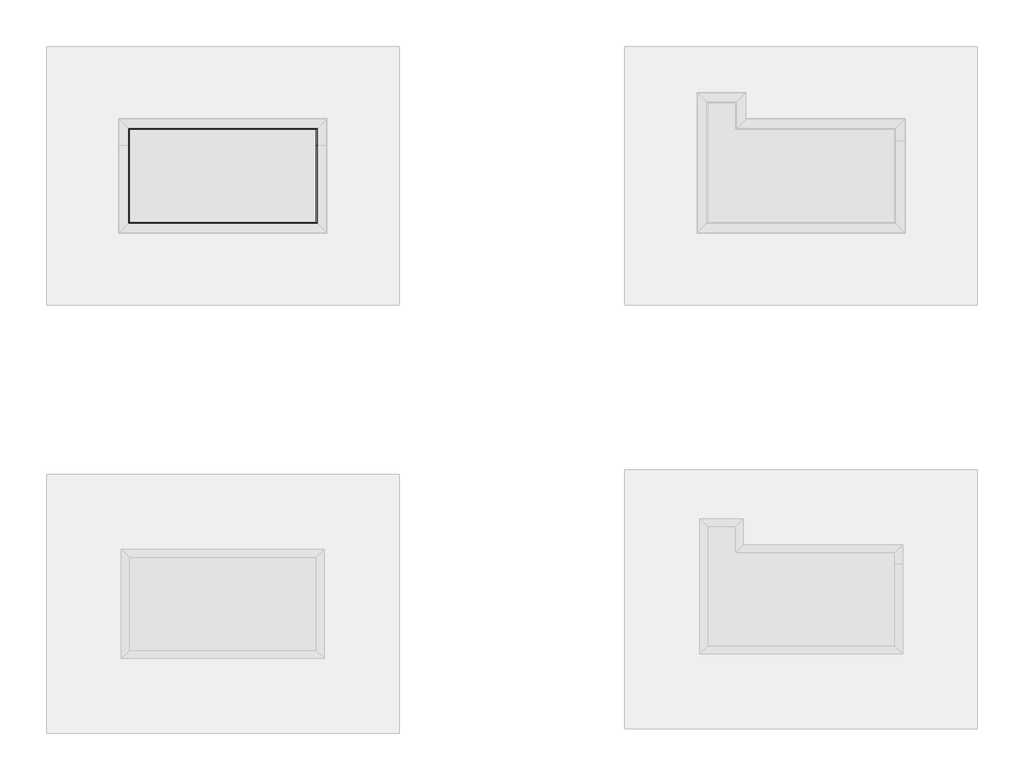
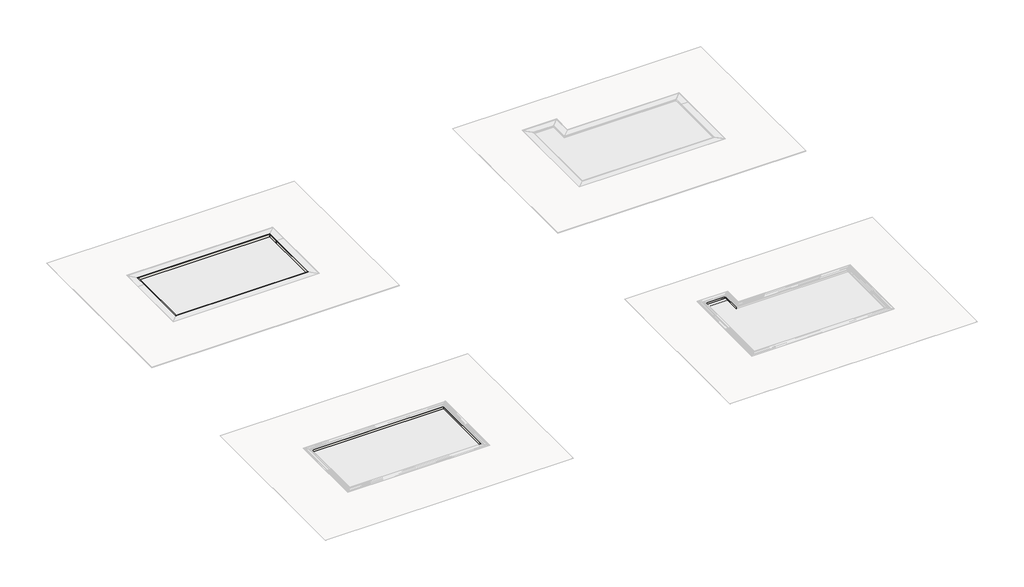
# One storey, part 1 of 8: 18 walls.
"""IFC4 building model written with IfcOpenShell, lengths in millimetres."""

import ifcopenshell
import ifcopenshell.guid

model = None  # the IFC model being written
_history = None  # IfcOwnerHistory: only IFC2X3 demands one
_inside = {}  # id of a spatial element -> (the spatial element, [elements in it])
_under = {}  # id of a project, library or spatial element -> (it, [spatial elements below it])
_declared = {}  # id of a project -> (the project, [libraries it declares])
_typed = {}  # id of a type object -> (the type object, [elements of that type])
_made_of = {}  # id of a material, layer set ... -> (it, [elements and type objects made of it])


def new_model(schema):
    """Start an empty IFC model of exactly this schema.

    Asked for "IFC4X3", IfcOpenShell would pick the latest addendum, in which some entities
    have other attributes; the version numbers below select the first issue.
    IFC2X3 requires an IfcOwnerHistory on every rooted entity: one is made here for all.
    """
    global model, _history
    if schema == "IFC4X3":
        model = ifcopenshell.file(schema_version=(4, 3, 0, 0))
    else:
        model = ifcopenshell.file(schema=schema)
    _inside.clear()
    _under.clear()
    _declared.clear()
    _typed.clear()
    _made_of.clear()
    _history = None
    if model.schema == "IFC2X3":
        org = make("IfcOrganization", Name="unknown")
        user = make(
            "IfcPersonAndOrganization",
            ThePerson=make("IfcPerson", FamilyName="unknown"),
            TheOrganization=org,
        )
        app = make(
            "IfcApplication",
            ApplicationDeveloper=org,
            Version="unknown",
            ApplicationFullName="unknown",
            ApplicationIdentifier="unknown",
        )
        _history = make(
            "IfcOwnerHistory",
            OwningUser=user,
            OwningApplication=app,
            ChangeAction="ADDED",
            CreationDate=0,
        )
    return model


def make(cls, **values):
    """One entity of the class cls with the attributes given. An attribute that is None is left unset."""
    return model.create_entity(
        cls, **{name: value for name, value in values.items() if value is not None}
    )


def rooted(cls, **values):
    """An entity with a GlobalId (a new one), such as an element, a storey or a relation."""
    return make(cls, GlobalId=ifcopenshell.guid.new(), OwnerHistory=_history, **values)


def si_unit(unit_type, name, prefix=None):
    """IfcSIUnit, for example si_unit("LENGTHUNIT", "METRE", prefix="MILLI")."""
    return make("IfcSIUnit", UnitType=unit_type, Prefix=prefix, Name=name)


def assignment(units):
    """IfcUnitAssignment: the units of a project."""
    return None if units is None else make("IfcUnitAssignment", Units=units)


def point(xyz):
    """IfcCartesianPoint."""
    return None if xyz is None else make("IfcCartesianPoint", Coordinates=xyz)


def direction(xyz):
    """IfcDirection."""
    return None if xyz is None else make("IfcDirection", DirectionRatios=xyz)


def frame(location, z_axis=None, x_axis=None):
    """IfcAxis2Placement3D, a coordinate frame: its origin and axes. An axis left out is left unset."""
    return make(
        "IfcAxis2Placement3D",
        Location=point(location),
        Axis=direction(z_axis),
        RefDirection=direction(x_axis),
    )


def origin():
    """The frame at (0, 0, 0) with its axes left unset."""
    return frame((0.0, 0.0, 0.0))


def place(relative_to, where):
    """IfcLocalPlacement: puts the frame where relative to a parent placement (None: the world)."""
    return make(
        "IfcLocalPlacement", PlacementRelTo=relative_to, RelativePlacement=where
    )


def context(
    kind, dimensions, precision=None, world=None, true_north=None, identifier=None
):
    """IfcGeometricRepresentationContext, for example the 3D "Model" context."""
    return make(
        "IfcGeometricRepresentationContext",
        ContextIdentifier=identifier,
        ContextType=kind,
        CoordinateSpaceDimension=dimensions,
        Precision=precision,
        WorldCoordinateSystem=world,
        TrueNorth=true_north,
    )


def project(units=None, contexts=None):
    """IfcProject with its units and contexts."""
    return rooted(
        "IfcProject",
        Name="project",
        RepresentationContexts=contexts,
        UnitsInContext=assignment(units),
    )


def spatial(cls, under=None, at=None, **own):
    """A site, building, storey or space (cls), placed at a placement, below another one or the project."""
    s = rooted(cls, ObjectPlacement=at, **own)
    if under is not None:
        _under.setdefault(under.id(), (under, []))[1].append(s)
    return s


def polyline(points):
    """IfcPolyline through the points."""
    return make("IfcPolyline", Points=[point(p) for p in points])


def circle_curve(where, radius):
    """IfcCircle in the frame where."""
    return make("IfcCircle", Position=where, Radius=radius)


def faces_of(points, faces, orient=None, outer=None):
    """IfcFace entities. A face is a list of loops; a loop is a list of indices into points, from 0.

    orient and outer hold one flag for each loop. By default every Orientation is true, the
    first loop of a face is its IfcFaceOuterBound and the others are IfcFaceBound.
    """
    made = []
    for i, loops in enumerate(faces):
        bounds = []
        for j, loop in enumerate(loops):
            is_outer = j == 0 if outer is None else outer[i][j]
            bounds.append(
                make(
                    "IfcFaceOuterBound" if is_outer else "IfcFaceBound",
                    Bound=make("IfcPolyLoop", Polygon=[points[k] for k in loop]),
                    Orientation=True if orient is None else orient[i][j],
                )
            )
        made.append(make("IfcFace", Bounds=bounds))
    return made


def faceted_brep(points, faces, orient=None, outer=None, voids=None):
    """IfcFacetedBrep: a solid bounded by flat faces; with voids (closed shells), ...WithVoids."""
    shared = [point(p) for p in points]
    hull = make("IfcClosedShell", CfsFaces=faces_of(shared, faces, orient, outer))
    if voids is None:
        return make("IfcFacetedBrep", Outer=hull)
    return make(
        "IfcFacetedBrepWithVoids",
        Outer=hull,
        Voids=[
            make(cls, CfsFaces=faces_of(shared, fs, o, b)) for cls, fs, o, b in voids
        ],
    )


def shape(context_of_items, identifier, shape_type, items):
    """IfcShapeRepresentation: the items that make up one representation, for example the "Body"."""
    return make(
        "IfcShapeRepresentation",
        ContextOfItems=context_of_items,
        RepresentationIdentifier=identifier,
        RepresentationType=shape_type,
        Items=items,
    )


def made_of(thing, what):
    """Note that an element or type object is made of a material, layer set ...; save() writes the relation."""
    if what is not None:
        _made_of.setdefault(what.id(), (what, []))[1].append(thing)
    return thing


def element(
    cls,
    number,
    at=None,
    inside=None,
    cuts=None,
    type_object=None,
    material=None,
    context=None,
    identifier="Body",
    shape_type=None,
    held_by="IfcProductDefinitionShape",
    body=None,
    shapes=None,
    **own,
):
    """One element of the class cls, such as IfcWall. Its Tag is "e" and its number.

    at: its placement. inside: the storey or other place that contains it. cuts: it is an
    opening in that element (IfcRelVoidsElement). A single representation is given by context,
    identifier, shape_type and body (its items); several are given by shapes. held_by: the class
    of the entity that holds the representations. save() writes the other relations.
    """
    e = rooted(cls, Tag="e%d" % number, ObjectPlacement=at, **own)
    if body is not None:
        shapes = [shape(context, identifier, shape_type, body)]
    if shapes is not None:
        e.Representation = make(held_by, Representations=shapes)
    if inside is not None:
        _inside.setdefault(inside.id(), (inside, []))[1].append(e)
    if cuts is not None:
        rooted(
            "IfcRelVoidsElement", RelatingBuildingElement=cuts, RelatedOpeningElement=e
        )
    if type_object is not None:
        _typed.setdefault(type_object.id(), (type_object, []))[1].append(e)
    return made_of(e, material)


def aggregate(whole, parts):
    """IfcRelAggregates: a whole, such as a stair, and the parts it consists of."""
    return rooted("IfcRelAggregates", RelatingObject=whole, RelatedObjects=parts)


def save(model, path):
    """Write the relations noted so far, then the file.

    IfcRelAggregates (storeys below a building ...), IfcRelContainedInSpatialStructure (elements
    in a storey), IfcRelDefinesByType, IfcRelAssociatesMaterial and IfcRelDeclares: one each for
    every whole, place, type object, material and project.
    """
    for whole, parts in _under.values():
        aggregate(whole, parts)
    for where, things in _inside.values():
        rooted(
            "IfcRelContainedInSpatialStructure",
            RelatedElements=things,
            RelatingStructure=where,
        )
    for kind, things in _typed.values():
        rooted("IfcRelDefinesByType", RelatedObjects=things, RelatingType=kind)
    for what, things in _made_of.values():
        rooted("IfcRelAssociatesMaterial", RelatedObjects=things, RelatingMaterial=what)
    for by, libraries in _declared.values():
        rooted("IfcRelDeclares", RelatingContext=by, RelatedDefinitions=libraries)
    model.write(path)


def plane_surface(at):
    """IfcPlane: the flat surface through the origin of the frame at, square to its z axis."""
    return make("IfcPlane", Position=at)


def cylinder_surface(at, radius):
    """IfcCylindricalSurface: all points at the distance radius from the z axis of the frame at."""
    return make("IfcCylindricalSurface", Position=at, Radius=radius)


def revolved_surface(curve, axis_point, axis_direction):
    """IfcSurfaceOfRevolution: the curve turned about the line through axis_point along axis_direction."""
    return make(
        "IfcSurfaceOfRevolution",
        SweptCurve=make("IfcArbitraryOpenProfileDef", ProfileType="CURVE", Curve=curve),
        AxisPosition=make("IfcAxis1Placement", Location=point(axis_point), Axis=direction(axis_direction)),
    )


def advanced_brep(points, edges, surfaces, faces):
    """IfcAdvancedBrep: a solid bounded by faces that lie on surfaces and meet in shared edges.

    An edge is (start, end): straight between two places in points (the first is 0);
    or (start, end, curve); or (start, end, curve, False) where it runs against its curve.
    A face is (place in surfaces, loops), or (place, loops, False) where it looks against
    its surface's normal. A loop lists edges by number (the first is 1), with a minus sign
    where the edge is run from its end to its start. The first loop is the outer one.
    """
    corners = [point(p) for p in points]
    vertices = [make("IfcVertexPoint", VertexGeometry=c) for c in corners]
    made = []
    for start, end, *more in edges:
        made.append(
            make(
                "IfcEdgeCurve",
                EdgeStart=vertices[start],
                EdgeEnd=vertices[end],
                EdgeGeometry=more[0] if more else make("IfcPolyline", Points=[corners[start], corners[end]]),
                SameSense=more[1] if len(more) > 1 else True,
            )
        )
    hull = []
    for where, loops, *sense in faces:
        bounds = []
        for j, loop in enumerate(loops):
            ring = [make("IfcOrientedEdge", EdgeElement=made[abs(k) - 1], Orientation=k > 0) for k in loop]
            bounds.append(
                make(
                    "IfcFaceOuterBound" if j == 0 else "IfcFaceBound",
                    Bound=make("IfcEdgeLoop", EdgeList=ring),
                    Orientation=True,
                )
            )
        hull.append(make("IfcAdvancedFace", Bounds=bounds, FaceSurface=surfaces[where], SameSense=sense[0] if sense else True))
    return make("IfcAdvancedBrep", Outer=make("IfcClosedShell", CfsFaces=hull))


model = new_model("IFC4")

# Units and contexts
model_context = context("Model", 3, world=origin())
ifc_project = project(units=[si_unit("LENGTHUNIT", "METRE", prefix="MILLI")], contexts=[model_context])

# Site, building, storey
site = spatial("IfcSite", under=ifc_project)
building = spatial("IfcBuilding", under=site)
storey = spatial("IfcBuildingStorey", under=building, Name="EXAGRES_Serie YOHO_Piscinas_ejemplo", Elevation=0.0)

# Walls
placement = place(None, origin())
element("IfcWall", 1, ObjectType="Exagres_Piscina Skimmer - Borde 45x75 - Yoho Oak -", at=placement, inside=storey, context=model_context, shape_type="Brep", body=[
    faceted_brep([(-6819.8495187, -4306.1586753, -1510.0), (-4819.8495187, -4306.1586753, -1510.0), (-4819.8495187, -4306.1586753, -1509.0), (-6819.8495187, -4306.1586753, -1509.0), (-10819.8495187, -4306.1586753, -509.0), (-12819.8495187, -4306.1586753, -509.0), (-12819.8495187, -4306.1586753, -510.0), (-10819.8495187, -4306.1586753, -510.0), (-4594.8495187, -4081.1586753, -1510.0), (-6819.8495187, -4081.1586753, -1510.0), (-10819.8495187, -4081.1586753, -510.0), (-13044.8495187, -4081.1586753, -510.0), (-13044.8495187, -4081.1586753, -509.0), (-10819.8495187, -4081.1586753, -509.0), (-6819.8495187, -4081.1586753, -1509.0), (-4594.8495187, -4081.1586753, -1509.0)], [[[0, 1, 2, 3, 4, 5, 6, 7]], [[8, 9, 10, 11, 12, 13, 14, 15]], [[1, 0, 9, 8]], [[7, 6, 11, 10]], [[0, 7, 10, 9]], [[4, 13, 12, 5]], [[13, 4, 3, 14]], [[11, 6, 5, 12]], [[1, 8, 15, 2]], [[14, 3, 2, 15]]]),
    faceted_brep([(-4819.8495187, -4306.1586753, 0.0), (-12819.8495187, -4306.1586753, 0.0), (-12819.8495187, -4306.1586753, -500.0), (-10819.8495187, -4306.1586753, -500.0), (-6819.8495187, -4306.1586753, -1500.0), (-4819.8495187, -4306.1586753, -1500.0), (-13044.8495187, -4081.1586753, -200.0), (-4594.8495187, -4081.1586753, -200.0), (-4594.8495187, -4081.1586753, -1500.0), (-6819.8495187, -4081.1586753, -1500.0), (-10819.8495187, -4081.1586753, -500.0), (-13044.8495187, -4081.1586753, -500.0), (-4794.8495187, -4281.1586753, -200.0), (-12844.8495187, -4281.1586753, -200.0), (-12844.8495187, -4281.1586753, 0.0), (-4794.8495187, -4281.1586753, 0.0), (-4807.6328552, -4293.9420118, 0.0), (-4802.4464243, -4288.7555809, 0.0), (-12837.2526131, -4288.7555809, 0.0), (-12832.0661823, -4293.9420118, 0.0)], [[[0, 1, 2, 3, 4, 5]], [[6, 7, 8, 9, 10, 11]], [[12, 13, 14, 15]], [[13, 12, 7, 6]], [[1, 0, 16, 17, 15, 14, 18, 19]], [[10, 3, 2, 11]], [[4, 9, 8, 5]], [[3, 10, 9, 4]], [[13, 6, 11, 2, 1, 19, 18, 14]], [[7, 12, 15, 17, 16, 0, 5, 8]]]),
])
element("IfcWall", 2, ObjectType="Exagres_Piscina Skimmer - Borde 45x75 - Yoho Oak -", at=placement, inside=storey, context=model_context, shape_type="Brep", body=[
    faceted_brep([(-4819.8495187, -4306.1586753, -1510.0), (-4819.8495187, -5006.1586753, -1510.0), (-4819.8495187, -5006.1586753, 0.0), (-4819.8495187, -4306.1586753, 0.0), (-4594.8495187, -5006.1586753, -1510.0), (-4594.8495187, -4081.1586753, -1510.0), (-4594.8495187, -4081.1586753, -200.0), (-4594.8495187, -5006.1586753, -200.0), (-4794.8495187, -5006.1586753, -200.0), (-4794.8495187, -5006.1586753, 0.0), (-4802.4464243, -5006.1586753, 0.0), (-4807.6328552, -5006.1586753, 0.0), (-4794.8495187, -4281.1586753, 0.0), (-4802.4464243, -4288.7555809, 0.0), (-4807.6328552, -4293.9420118, 0.0), (-4794.8495187, -4281.1586753, -200.0)], [[[0, 1, 2, 3]], [[4, 5, 6, 7]], [[1, 0, 5, 4]], [[2, 1, 4, 7, 8, 9, 10, 11]], [[3, 2, 11, 10, 9, 12, 13, 14]], [[8, 15, 12, 9]], [[15, 8, 7, 6]], [[0, 3, 14, 13, 12, 15, 6, 5]]]),
])
element("IfcWall", 3, ObjectType="Exagres_Piscina Skimmer - Borde 45x75 - Yoho Oak -", at=placement, inside=storey, context=model_context, shape_type="Brep", body=[
    faceted_brep([(-12819.8495187, -8306.1586753, 0.0), (-4819.8495187, -8306.1586753, 0.0), (-4819.8495187, -8306.1586753, -1510.0), (-6681.3506315, -8306.1586753, -1510.0), (-10958.348406, -8306.1586753, -510.0), (-12819.8495187, -8306.1586753, -510.0), (-6681.3506315, -8531.1586753, -1510.0), (-4594.8495187, -8531.1586753, -1510.0), (-4594.8495187, -8531.1586753, -200.0), (-13044.8495187, -8531.1586753, -200.0), (-13044.8495187, -8531.1586753, -510.0), (-10958.348406, -8531.1586753, -510.0), (-12844.8495187, -8331.1586753, -200.0), (-4794.8495187, -8331.1586753, -200.0), (-4794.8495187, -8331.1586753, 0.0), (-12844.8495187, -8331.1586753, 0.0), (-12832.0661823, -8318.3753388, 0.0), (-12837.2526131, -8323.5617697, 0.0), (-4802.4464243, -8323.5617697, 0.0), (-4807.6328552, -8318.3753388, 0.0)], [[[0, 1, 2, 3, 4, 5]], [[6, 7, 8, 9, 10, 11]], [[12, 13, 14, 15]], [[13, 12, 9, 8]], [[1, 0, 16, 17, 15, 14, 18, 19]], [[3, 2, 7, 6]], [[4, 3, 6, 11]], [[5, 4, 11, 10]], [[2, 1, 19, 18, 14, 13, 8, 7]], [[0, 5, 10, 9, 12, 15, 17, 16]]]),
])
element("IfcWall", 4, ObjectType="Exagres_Piscina Skimmer - Borde 45x75 - Yoho Oak -", at=placement, inside=storey, context=model_context, shape_type="Brep", body=[
    faceted_brep([(-12819.8495187, -8306.1586753, -500.0), (-12819.8495187, -5006.1586753, -500.0), (-12819.8495187, -5006.1586753, 0.0), (-12819.8495187, -8306.1586753, 0.0), (-13044.8495187, -5006.1586753, -500.0), (-13044.8495187, -8531.1586753, -500.0), (-13044.8495187, -8531.1586753, -200.0), (-13044.8495187, -5006.1586753, -200.0), (-12844.8495187, -5006.1586753, -200.0), (-12844.8495187, -5006.1586753, 0.0), (-12837.2526131, -5006.1586753, 0.0), (-12832.0661823, -5006.1586753, 0.0), (-12844.8495187, -8331.1586753, 0.0), (-12837.2526131, -8323.5617697, 0.0), (-12832.0661823, -8318.3753388, 0.0), (-12844.8495187, -8331.1586753, -200.0)], [[[0, 1, 2, 3]], [[4, 5, 6, 7]], [[1, 0, 5, 4]], [[2, 1, 4, 7, 8, 9, 10, 11]], [[3, 2, 11, 10, 9, 12, 13, 14]], [[8, 15, 12, 9]], [[15, 8, 7, 6]], [[0, 3, 14, 13, 12, 15, 6, 5]]]),
])
element("IfcWall", 5, ObjectType="Exagres_Piscina Skimmer - Borde 45x75 - Yoho Oak -", at=placement, inside=storey, context=model_context, shape_type="Brep", body=[
    faceted_brep([(-12819.8495187, -5006.1586753, -500.0), (-12819.8495187, -4306.1586753, -500.0), (-12819.8495187, -4306.1586753, 0.0), (-12819.8495187, -5006.1586753, 0.0), (-13044.8495187, -4081.1586753, -500.0), (-13044.8495187, -5006.1586753, -500.0), (-13044.8495187, -5006.1586753, -200.0), (-13044.8495187, -4081.1586753, -200.0), (-12832.0661823, -4293.9420118, 0.0), (-12837.2526131, -4288.7555809, 0.0), (-12844.8495187, -4281.1586753, 0.0), (-12844.8495187, -5006.1586753, 0.0), (-12837.2526131, -5006.1586753, 0.0), (-12832.0661823, -5006.1586753, 0.0), (-12844.8495187, -5006.1586753, -200.0), (-12844.8495187, -4281.1586753, -200.0)], [[[0, 1, 2, 3]], [[4, 5, 6, 7]], [[1, 0, 5, 4]], [[3, 2, 8, 9, 10, 11, 12, 13]], [[0, 3, 13, 12, 11, 14, 6, 5]], [[2, 1, 4, 7, 15, 10, 9, 8]], [[14, 15, 7, 6]], [[15, 14, 11, 10]]]),
])
element("IfcWall", 6, ObjectType="Exagres_Piscina Skimmer - Borde 45x75 - Yoho Oak -", at=placement, inside=storey, context=model_context, shape_type="Brep", body=[
    faceted_brep([(-4819.8495187, -5006.1586753, -1510.0), (-4819.8495187, -8306.1586753, -1510.0), (-4819.8495187, -8306.1586753, 0.0), (-4819.8495187, -5006.1586753, 0.0), (-4594.8495187, -8531.1586753, -1510.0), (-4594.8495187, -5006.1586753, -1510.0), (-4594.8495187, -5006.1586753, -200.0), (-4594.8495187, -8531.1586753, -200.0), (-4807.6328552, -8318.3753388, 0.0), (-4802.4464243, -8323.5617697, 0.0), (-4794.8495187, -8331.1586753, 0.0), (-4794.8495187, -5006.1586753, 0.0), (-4802.4464243, -5006.1586753, 0.0), (-4807.6328552, -5006.1586753, 0.0), (-4794.8495187, -5006.1586753, -200.0), (-4794.8495187, -8331.1586753, -200.0)], [[[0, 1, 2, 3]], [[4, 5, 6, 7]], [[1, 0, 5, 4]], [[3, 2, 8, 9, 10, 11, 12, 13]], [[0, 3, 13, 12, 11, 14, 6, 5]], [[2, 1, 4, 7, 15, 10, 9, 8]], [[14, 15, 7, 6]], [[15, 14, 11, 10]]]),
])
element("IfcWall", 7, ObjectType="Exagres_Piscina Skimmer - Peldaño 33x120 - Yoho Natural -", at=placement, inside=storey, context=model_context, shape_type="Brep", body=[
    faceted_brep([(-4804.8495187, -22600.0065757, -181.26), (-4804.8495187, -22600.0065757, 0.0), (-4819.8495187, -22600.0065757, 0.0), (-12819.8495187, -22600.0065757, 0.0), (-12834.8495187, -22600.0065757, 0.0), (-12834.8495187, -22600.0065757, -181.26), (-13044.8495187, -22600.0065757, -181.26), (-13044.8495187, -22600.0065757, -500.0), (-12819.8495187, -22600.0065757, -500.0), (-10819.8495187, -22600.0065757, -500.0), (-6819.8495187, -22600.0065757, -1500.0), (-4594.8495187, -22600.0065757, -1500.0), (-4594.8495187, -22600.0065757, -181.26), (-13044.8495187, -22375.0065757, -181.26), (-4594.8495187, -22375.0065757, -181.26), (-4594.8495187, -22375.0065757, -1500.0), (-6819.8495187, -22375.0065757, -1500.0), (-10819.8495187, -22375.0065757, -500.0), (-13044.8495187, -22375.0065757, -500.0), (-4804.8495187, -22585.0065757, -181.26), (-12834.8495187, -22585.0065757, -181.26), (-12834.8495187, -22585.0065757, 0.0), (-4804.8495187, -22585.0065757, 0.0)], [[[0, 1, 2, 3, 4, 5, 6, 7, 8, 9, 10, 11, 12]], [[13, 14, 15, 16, 17, 18]], [[19, 20, 21, 22]], [[0, 19, 22, 1]], [[20, 5, 4, 21]], [[20, 19, 0, 12, 14, 13, 6, 5]], [[22, 21, 4, 3, 2, 1]], [[17, 9, 8, 7, 18]], [[10, 16, 15, 11]], [[9, 17, 16, 10]], [[6, 13, 18, 7]], [[14, 12, 11, 15]]]),
])
element("IfcWall", 8, ObjectType="Exagres_Piscina Skimmer - Peldaño 33x120 - Yoho Natural -", at=placement, inside=storey, context=model_context, shape_type="Brep", body=[
    faceted_brep([(-12819.8495187, -26600.0065757, 0.0), (-4819.8495187, -26600.0065757, 0.0), (-4819.8495187, -26600.0065757, -1510.0), (-6681.3506315, -26600.0065757, -1510.0), (-10958.348406, -26600.0065757, -510.0), (-12819.8495187, -26600.0065757, -510.0), (-6681.3506315, -26825.0065757, -1510.0), (-4594.8495187, -26825.0065757, -1510.0), (-4594.8495187, -26825.0065757, -181.26), (-13044.8495187, -26825.0065757, -181.26), (-13044.8495187, -26825.0065757, -510.0), (-10958.348406, -26825.0065757, -510.0), (-12834.8495187, -26615.0065757, -181.26), (-4804.8495187, -26615.0065757, -181.26), (-4804.8495187, -26615.0065757, 0.0), (-12834.8495187, -26615.0065757, 0.0), (-12832.8495187, -26613.0065757, 0.0), (-4806.8495187, -26613.0065757, 0.0)], [[[0, 1, 2, 3, 4, 5]], [[6, 7, 8, 9, 10, 11]], [[12, 13, 14, 15]], [[13, 12, 9, 8]], [[1, 0, 16, 15, 14, 17]], [[3, 2, 7, 6]], [[4, 3, 6, 11]], [[5, 4, 11, 10]], [[2, 1, 17, 14, 13, 8, 7]], [[0, 5, 10, 9, 12, 15, 16]]]),
])
element("IfcWall", 9, ObjectType="Exagres_Piscina Skimmer - Peldaño 33x120 - Yoho Natural -", at=placement, inside=storey, context=model_context, shape_type="Brep", body=[
    faceted_brep([(-12819.8495187, -26600.0065757, -500.0), (-12819.8495187, -22600.0065757, -500.0), (-12819.8495187, -22600.0065757, 0.0), (-12819.8495187, -26600.0065757, 0.0), (-13044.8495187, -22600.0065757, -500.0), (-13044.8495187, -26825.0065757, -500.0), (-13044.8495187, -26825.0065757, -181.26), (-13044.8495187, -22600.0065757, -181.26), (-12834.8495187, -22600.0065757, 0.0), (-12834.8495187, -26615.0065757, 0.0), (-12832.8495187, -26613.0065757, 0.0), (-12834.8495187, -22600.0065757, -181.26), (-12834.8495187, -26615.0065757, -181.26)], [[[0, 1, 2, 3]], [[4, 5, 6, 7]], [[1, 0, 5, 4]], [[3, 2, 8, 9, 10]], [[11, 12, 9, 8]], [[12, 11, 7, 6]], [[0, 3, 10, 9, 12, 6, 5]], [[2, 1, 4, 7, 11, 8]]]),
])
element("IfcWall", 10, ObjectType="Exagres_Piscina Skimmer - Peldaño 33x120 - Yoho Natural -", at=placement, inside=storey, context=model_context, shape_type="Brep", body=[
    faceted_brep([(-4819.8495187, -22600.0065757, -1510.0), (-4819.8495187, -26600.0065757, -1510.0), (-4819.8495187, -26600.0065757, 0.0), (-4819.8495187, -22600.0065757, 0.0), (-4594.8495187, -26825.0065757, -1510.0), (-4594.8495187, -22600.0065757, -1510.0), (-4594.8495187, -22600.0065757, -181.26), (-4594.8495187, -26825.0065757, -181.26), (-4806.8495187, -26613.0065757, 0.0), (-4804.8495187, -26615.0065757, 0.0), (-4804.8495187, -22600.0065757, 0.0), (-4804.8495187, -26615.0065757, -181.26), (-4804.8495187, -22600.0065757, -181.26)], [[[0, 1, 2, 3]], [[4, 5, 6, 7]], [[1, 0, 5, 4]], [[3, 2, 8, 9, 10]], [[2, 1, 4, 7, 11, 9, 8]], [[12, 11, 7, 6]], [[11, 12, 10, 9]], [[0, 3, 10, 12, 6, 5]]]),
])
element("IfcWall", 11, ObjectType="Exagres_Piscina Skimmer - Peldaño 33x120 - Yoho Teca -", at=placement, inside=storey, context=model_context, shape_type="Brep", body=[
    faceted_brep([(19895.1504813, -26406.1586753, -181.26), (20105.1504813, -26406.1586753, -181.26), (20105.1504813, -26406.1586753, -1500.0), (19880.1504813, -26406.1586753, -1500.0), (17975.8793908, -26406.1586753, -1500.0), (16497.7724506, -26406.1586753, -1154.4054923), (13880.1504813, -26406.1586753, -500.0), (11880.1504813, -26406.1586753, -500.0), (11880.1504813, -26406.1586753, 0.0), (19880.1504813, -26406.1586753, 0.0), (19895.1504813, -26406.1586753, 0.0), (20105.1504813, -26631.1586753, -181.26), (11655.1504813, -26631.1586753, -181.26), (11655.1504813, -26631.1586753, -500.0), (13880.1504813, -26631.1586753, -500.0), (16497.7724506, -26631.1586753, -1154.4054923), (17975.8793908, -26631.1586753, -1500.0), (20105.1504813, -26631.1586753, -1500.0), (11865.1504813, -26421.1586753, -181.26), (19895.1504813, -26421.1586753, -181.26), (19895.1504813, -26421.1586753, 0.0), (11865.1504813, -26421.1586753, 0.0), (11867.1504813, -26419.1586753, 0.0)], [[[0, 1, 2, 3, 4, 5, 6, 7, 8, 9, 10]], [[11, 12, 13, 14, 15, 16, 17]], [[18, 19, 20, 21]], [[19, 18, 12, 11, 1, 0]], [[19, 0, 10, 20]], [[21, 20, 10, 9, 8, 22]], [[5, 4, 16, 15]], [[12, 18, 21, 22, 8, 7, 13]], [[1, 11, 17, 2]], [[6, 14, 13, 7]], [[4, 3, 2, 17, 16]], [[14, 6, 5, 15]]]),
    faceted_brep([(13741.651594, -26406.1586753, -510.0), (11880.1504813, -26406.1586753, -510.0), (11880.1504813, -26406.1586753, -509.0), (13880.1504813, -26406.1586753, -509.0), (15941.9126782, -26406.1586753, -1024.4405492), (11655.1504813, -26631.1586753, -510.0), (13741.651594, -26631.1586753, -510.0), (15941.9126782, -26631.1586753, -1024.4405492), (13880.1504813, -26631.1586753, -509.0), (11655.1504813, -26631.1586753, -509.0)], [[[0, 1, 2, 3, 4]], [[5, 6, 7, 8, 9]], [[6, 0, 4, 7]], [[1, 0, 6, 5]], [[1, 5, 9, 2]], [[8, 3, 2, 9]], [[3, 8, 7, 4]]]),
    faceted_brep([(20105.1504813, -26406.1586753, -1510.0), (19880.1504813, -26406.1586753, -1510.0), (18018.6493685, -26406.1586753, -1510.0), (18014.3723707, -26406.1586753, -1509.0), (19880.1504813, -26406.1586753, -1509.0), (20105.1504813, -26406.1586753, -1509.0), (18018.6493685, -26631.1586753, -1510.0), (20105.1504813, -26631.1586753, -1510.0), (20105.1504813, -26631.1586753, -1509.0), (18014.3723707, -26631.1586753, -1509.0)], [[[0, 1, 2, 3, 4, 5]], [[6, 7, 8, 9]], [[2, 1, 0, 7, 6]], [[2, 6, 9, 3]], [[7, 0, 5, 8]], [[5, 4, 3, 9, 8]]]),
])
element("IfcWall", 12, ObjectType="Exagres_Piscina Skimmer - Peldaño 33x120 - Yoho Teca -", at=placement, inside=storey, context=model_context, shape_type="AdvancedBrep", body=[
    advanced_brep(
    [(11880.1504813, -26406.1586753, -500.0), (11880.1504813, -22406.1586753, -500.0), (11880.1504813, -22181.1586753, -500.0), (11880.1504813, -21286.1586753, -500.0), (11880.1504813, -21286.1586753, -109.0), (11880.1504813, -21502.2586753, -109.0), (11880.1504813, -21502.2586753, -106.4), (11880.1504813, -21502.2586753, -100.0), (11880.1504813, -21286.1586753, -100.0), (11880.1504813, -21286.1586753, 0.0), (11880.1504813, -26406.1586753, 0.0), (11880.1504813, -22126.1586753, -409.0), (11880.1504813, -22382.2586753, -409.0), (11880.1504813, -22382.2586753, -406.4), (11880.1504813, -22399.7586753, -423.9), (11880.1504813, -22406.1586753, -423.9), (11880.1504813, -22382.2586753, -400.0), (11880.1504813, -22126.1586753, -400.0), (11880.1504813, -21826.1586753, -309.0), (11880.1504813, -22102.2586753, -309.0), (11880.1504813, -22102.2586753, -306.4), (11880.1504813, -22119.7586753, -323.9), (11880.1504813, -22126.1586753, -323.9), (11880.1504813, -22102.2586753, -300.0), (11880.1504813, -21826.1586753, -300.0), (11880.1504813, -21526.1586753, -209.0), (11880.1504813, -21802.2586753, -209.0), (11880.1504813, -21802.2586753, -206.4), (11880.1504813, -21819.7586753, -223.9), (11880.1504813, -21826.1586753, -223.9), (11880.1504813, -21802.2586753, -200.0), (11880.1504813, -21526.1586753, -200.0), (11655.1504813, -21061.1586753, -500.0), (11655.1504813, -26631.1586753, -500.0), (11655.1504813, -26631.1586753, -181.26), (11655.1504813, -21061.1586753, -181.26), (11867.1504813, -21273.1586753, 0.0), (11865.1504813, -21271.1586753, 0.0), (11865.1504813, -26421.1586753, 0.0), (11867.1504813, -26419.1586753, 0.0), (11865.1504813, -21271.1586753, -181.26), (11865.1504813, -26421.1586753, -181.26), (11865.1504813, -21271.1586753, -100.0), (11865.1504813, -21502.2586753, -100.0), (11865.1504813, -21502.2586753, -106.4), (11865.1504813, -21502.2586753, -109.0), (11865.1504813, -21271.1586753, -109.0), (11855.1504813, -22126.1586753, -409.0), (11855.1504813, -22382.2586753, -409.0), (11855.1504813, -22126.1586753, -400.0), (11855.1504813, -22382.2586753, -400.0), (11855.1504813, -22406.1586753, -423.9), (11855.1504813, -22399.7586753, -423.9), (11855.1504813, -22382.2586753, -406.4), (11855.1504813, -21826.1586753, -309.0), (11855.1504813, -22102.2586753, -309.0), (11855.1504813, -21826.1586753, -300.0), (11855.1504813, -22102.2586753, -300.0), (11855.1504813, -22126.1586753, -323.9), (11855.1504813, -22119.7586753, -323.9), (11855.1504813, -22102.2586753, -306.4), (11855.1504813, -21526.1586753, -209.0), (11855.1504813, -21802.2586753, -209.0), (11855.1504813, -21526.1586753, -200.0), (11855.1504813, -21802.2586753, -200.0), (11855.1504813, -21826.1586753, -223.9), (11855.1504813, -21819.7586753, -223.9), (11855.1504813, -21802.2586753, -206.4)],
    [
        (0, 1),
        (1, 2),
        (2, 3),
        (3, 4),
        (4, 5),
        (5, 6),
        (6, 7),
        (7, 8),
        (8, 9),
        (9, 10),
        (10, 0),
        (11, 12),
        (12, 13),
        (13, 14, circle_curve(frame((11880.1504813, -22382.2586753, -423.9), z_axis=(1.0, 0.0, 0.0), x_axis=(0.0, 1.0, 0.0)), 17.5)),
        (14, 15),
        (15, 16, circle_curve(frame((11880.1504813, -22382.2586753, -423.9), z_axis=(-1.0, 0.0, 0.0), x_axis=(0.0, 1.0, 0.0)), 23.9)),
        (16, 17),
        (17, 11),
        (18, 19),
        (19, 20),
        (20, 21, circle_curve(frame((11880.1504813, -22102.2586753, -323.9), z_axis=(1.0, 0.0, 0.0), x_axis=(0.0, 1.0, 0.0)), 17.5)),
        (21, 22),
        (22, 23, circle_curve(frame((11880.1504813, -22102.2586753, -323.9), z_axis=(-1.0, 0.0, 0.0), x_axis=(0.0, 1.0, 0.0)), 23.9)),
        (23, 24),
        (24, 18),
        (25, 26),
        (26, 27),
        (27, 28, circle_curve(frame((11880.1504813, -21802.2586753, -223.9), z_axis=(1.0, 0.0, 0.0), x_axis=(0.0, 1.0, 0.0)), 17.5)),
        (28, 29),
        (29, 30, circle_curve(frame((11880.1504813, -21802.2586753, -223.9), z_axis=(-1.0, 0.0, 0.0), x_axis=(0.0, 1.0, 0.0)), 23.9)),
        (30, 31),
        (31, 25),
        (32, 33),
        (33, 34),
        (34, 35),
        (35, 32),
        (0, 33),
        (32, 3),
        (9, 36),
        (36, 37),
        (37, 38),
        (38, 39),
        (39, 10),
        (40, 41),
        (41, 38),
        (37, 42),
        (42, 43),
        (43, 44),
        (44, 45),
        (45, 46),
        (46, 40),
        (40, 35),
        (34, 41),
        (46, 4),
        (8, 42),
        (11, 47),
        (47, 48),
        (48, 12),
        (49, 17),
        (16, 50),
        (50, 49),
        (47, 49),
        (50, 51, circle_curve(frame((11855.1504813, -22382.2586753, -423.9), z_axis=(1.0, 0.0, 0.0), x_axis=(0.0, 1.0, 0.0)), 23.9)),
        (51, 52),
        (52, 53, circle_curve(frame((11855.1504813, -22382.2586753, -423.9), z_axis=(-1.0, 0.0, 0.0), x_axis=(0.0, 1.0, 0.0)), 17.5)),
        (53, 48),
        (18, 54),
        (54, 55),
        (55, 19),
        (56, 24),
        (23, 57),
        (57, 56),
        (54, 56),
        (57, 58, circle_curve(frame((11855.1504813, -22102.2586753, -323.9), z_axis=(1.0, 0.0, 0.0), x_axis=(0.0, 1.0, 0.0)), 23.9)),
        (58, 59),
        (59, 60, circle_curve(frame((11855.1504813, -22102.2586753, -323.9), z_axis=(-1.0, 0.0, 0.0), x_axis=(0.0, 1.0, 0.0)), 17.5)),
        (60, 55),
        (25, 61),
        (61, 62),
        (62, 26),
        (63, 31),
        (30, 64),
        (64, 63),
        (61, 63),
        (64, 65, circle_curve(frame((11855.1504813, -21802.2586753, -223.9), z_axis=(1.0, 0.0, 0.0), x_axis=(0.0, 1.0, 0.0)), 23.9)),
        (65, 66),
        (66, 67, circle_curve(frame((11855.1504813, -21802.2586753, -223.9), z_axis=(-1.0, 0.0, 0.0), x_axis=(0.0, 1.0, 0.0)), 17.5)),
        (67, 62),
        (45, 5),
        (7, 43),
        (67, 27),
        (53, 13),
        (15, 51),
        (52, 14),
        (22, 58),
        (59, 21),
        (20, 60),
        (29, 65),
        (66, 28),
    ],
    [
        plane_surface(frame((11880.1504813, -26406.1586753, -500.0), z_axis=(1.0, 0.0, 0.0), x_axis=(0.0, 1.0, 0.0))),
        plane_surface(frame((11655.1504813, -26406.1586753, -500.0), z_axis=(-1.0, 0.0, 0.0), x_axis=(0.0, -1.0, 0.0))),
        plane_surface(frame((11880.1504813, -26518.6586753, -500.0), z_axis=(0.0, 0.0, -1.0), x_axis=(-1.0, 0.0, 0.0))),
        plane_surface(frame((11880.1504813, -21173.6586753, 0.0), z_axis=(0.0, 0.0, 1.0), x_axis=(-1.0, 0.0, 0.0))),
        plane_surface(frame((11865.1504813, -26421.1586753, -181.26), z_axis=(-1.0, 0.0, 0.0), x_axis=(0.0, 1.0, 0.0))),
        plane_surface(frame((19880.1504813, -26726.1586753, -181.26), z_axis=(0.0, 0.0, 1.0), x_axis=(-1.0, 0.0, 0.0))),
        plane_surface(frame((11880.1504813, -21286.1586753, 0.0), z_axis=(0.7071067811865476, 0.7071067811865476, 0.0), x_axis=(-0.7071067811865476, 0.7071067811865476, 0.0))),
        plane_surface(frame((11655.1504813, -26631.1586753, 0.0), z_axis=(0.7071067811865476, -0.7071067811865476, 0.0), x_axis=(0.7071067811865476, 0.7071067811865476, 0.0))),
        plane_surface(frame((13080.1504813, -3839.4052265, -409.0), z_axis=(0.0, 0.0, 1.0), x_axis=(0.0, -1.0, 0.0))),
        plane_surface(frame((13080.1504813, -3839.4052265, -400.0), z_axis=(0.0, 0.0, -1.0), x_axis=(0.0, 1.0, 0.0))),
        plane_surface(frame((11855.1504813, -22406.1586753, -409.0), z_axis=(1.0, 0.0, 0.0), x_axis=(0.0, 0.0, 1.0))),
        plane_surface(frame((11855.1504813, -22126.1586753, -409.0), z_axis=(0.0, -1.0, 0.0), x_axis=(0.0, 0.0, 1.0))),
        plane_surface(frame((13105.1504813, -3539.4052265, -309.0), z_axis=(0.0, 0.0, 1.0), x_axis=(0.0, -1.0, 0.0))),
        plane_surface(frame((13105.1504813, -3539.4052265, -300.0), z_axis=(0.0, 0.0, -1.0), x_axis=(0.0, 1.0, 0.0))),
        plane_surface(frame((11855.1504813, -22126.1586753, -309.0), z_axis=(1.0, 0.0, 0.0), x_axis=(0.0, 0.0, 1.0))),
        plane_surface(frame((11855.1504813, -21826.1586753, -309.0), z_axis=(0.0, -1.0, 0.0), x_axis=(0.0, 0.0, 1.0))),
        plane_surface(frame((13105.1504813, -3099.4052265, -209.0), z_axis=(0.0, 0.0, 1.0), x_axis=(0.0, -1.0, 0.0))),
        plane_surface(frame((13105.1504813, -3099.4052265, -200.0), z_axis=(0.0, 0.0, -1.0), x_axis=(0.0, 1.0, 0.0))),
        plane_surface(frame((11855.1504813, -21826.1586753, -209.0), z_axis=(1.0, 0.0, 0.0), x_axis=(0.0, 0.0, 1.0))),
        plane_surface(frame((11855.1504813, -21526.1586753, -209.0), z_axis=(0.0, -1.0, 0.0), x_axis=(0.0, 0.0, 1.0))),
        plane_surface(frame((13105.1504813, -2799.4052265, -109.0), z_axis=(0.0, 0.0, 1.0), x_axis=(0.0, -1.0, 0.0))),
        plane_surface(frame((13105.1504813, -2799.4052265, -100.0), z_axis=(0.0, 0.0, -1.0), x_axis=(0.0, 1.0, 0.0))),
        plane_surface(frame((11855.1504813, -21502.2586753, -100.0), z_axis=(0.0, 1.0, 0.0), x_axis=(1.0, 0.0, 0.0))),
        plane_surface(frame((11855.1504813, -21802.2586753, -200.0), z_axis=(0.0, 1.0, 0.0), x_axis=(1.0, 0.0, 0.0))),
        plane_surface(frame((11855.1504813, -22382.2586753, -400.0), z_axis=(0.0, 1.0, 0.0), x_axis=(1.0, 0.0, 0.0))),
        revolved_surface(polyline([(11855.1504813, -22358.358675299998, -423.9), (11880.1504813, -22358.358675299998, -423.9)]), (11855.1504813, -22382.2586753, -423.9), (-1.0, 0.0, 0.0)),
        cylinder_surface(frame((11855.1504813, -22382.2586753, -423.9), z_axis=(1.0, 0.0, 0.0), x_axis=(0.0, 1.0, 0.0)), 17.5),
        plane_surface(frame((11855.1504813, -22399.7586753, -423.9), z_axis=(0.0, 0.0, 1.0), x_axis=(1.0, 0.0, 0.0))),
        revolved_surface(polyline([(11855.1504813, -22078.358675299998, -323.9), (11880.1504813, -22078.358675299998, -323.9)]), (11855.1504813, -22102.2586753, -323.9), (-1.0, 0.0, 0.0)),
        cylinder_surface(frame((11855.1504813, -22102.2586753, -323.9), z_axis=(1.0, 0.0, 0.0), x_axis=(0.0, 1.0, 0.0)), 17.5),
        plane_surface(frame((11855.1504813, -22119.7586753, -323.9), z_axis=(0.0, 0.0, 1.0), x_axis=(1.0, 0.0, 0.0))),
        revolved_surface(polyline([(11855.1504813, -21778.358675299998, -223.9), (11880.1504813, -21778.358675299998, -223.9)]), (11855.1504813, -21802.2586753, -223.9), (-1.0, 0.0, 0.0)),
        cylinder_surface(frame((11855.1504813, -21802.2586753, -223.9), z_axis=(1.0, 0.0, 0.0), x_axis=(0.0, 1.0, 0.0)), 17.5),
        plane_surface(frame((11855.1504813, -21819.7586753, -223.9), z_axis=(0.0, 0.0, 1.0), x_axis=(1.0, 0.0, 0.0))),
        plane_surface(frame((11855.1504813, -22102.2586753, -300.0), z_axis=(0.0, 1.0, 0.0), x_axis=(1.0, 0.0, 0.0))),
    ],
    [
        (0, [[1, 2, 3, 4, 5, 6, 7, 8, 9, 10, 11], [12, 13, 14, 15, 16, 17, 18], [19, 20, 21, 22, 23, 24, 25], [26, 27, 28, 29, 30, 31, 32]]),
        (1, [[33, 34, 35, 36]]),
        (2, [[-3, -2, -1, 37, -33, 38]]),
        (3, [[-10, 39, 40, 41, 42, 43]]),
        (4, [[44, 45, -41, 46, 47, 48, 49, 50, 51]]),
        (5, [[-44, 52, -35, 53]]),
        (6, [[-38, -36, -52, -51, 54, -4]]),
        (6, [[-9, 55, -46, -40, -39]]),
        (7, [[-11, -43, -42, -45, -53, -34, -37]]),
        (8, [[56, 57, 58, -12]]),
        (9, [[59, -17, 60, 61]]),
        (10, [[62, -61, 63, 64, 65, 66, -57]]),
        (11, [[-62, -56, -18, -59]]),
        (12, [[67, 68, 69, -19]]),
        (13, [[70, -24, 71, 72]]),
        (14, [[73, -72, 74, 75, 76, 77, -68]]),
        (15, [[-73, -67, -25, -70]]),
        (16, [[78, 79, 80, -26]]),
        (17, [[81, -31, 82, 83]]),
        (18, [[84, -83, 85, 86, 87, 88, -79]]),
        (19, [[-84, -78, -32, -81]]),
        (20, [[-5, -54, -50, 89]]),
        (21, [[-8, 90, -47, -55]]),
        (22, [[-7, -6, -89, -49, -48, -90]]),
        (23, [[-80, -88, 91, -27]]),
        (24, [[-58, -66, 92, -13]]),
        (25, [[-63, -60, -16, 93]]),
        (26, [[-65, 94, -14, -92]]),
        (27, [[-64, -93, -15, -94]]),
        (28, [[-74, -71, -23, 95]]),
        (29, [[-76, 96, -21, 97]]),
        (30, [[-75, -95, -22, -96]]),
        (31, [[-85, -82, -30, 98]]),
        (32, [[-87, 99, -28, -91]]),
        (33, [[-86, -98, -29, -99]]),
        (34, [[-69, -77, -97, -20]]),
    ],
),
])
element("IfcWall", 13, ObjectType="Exagres_Piscina Skimmer - Peldaño 33x120 - Yoho Teca -", at=placement, inside=storey, context=model_context, shape_type="AdvancedBrep", body=[
    advanced_brep(
    [(13305.1504813, -22181.1586753, -500.0), (13305.1504813, -21061.1586753, -500.0), (13305.1504813, -21061.1586753, -181.26), (13305.1504813, -22181.1586753, -181.26), (13080.1504813, -21286.1586753, -500.0), (13080.1504813, -22181.1586753, -500.0), (13080.1504813, -22406.1586753, -500.0), (13080.1504813, -22406.1586753, 0.0), (13080.1504813, -21286.1586753, 0.0), (13080.1504813, -21286.1586753, -100.0), (13080.1504813, -21502.2586753, -100.0), (13080.1504813, -21526.1586753, -123.9), (13080.1504813, -21519.7586753, -123.9), (13080.1504813, -21502.2586753, -106.4), (13080.1504813, -21502.2586753, -109.0), (13080.1504813, -21286.1586753, -109.0), (13080.1504813, -21802.2586753, -209.0), (13080.1504813, -21526.1586753, -209.0), (13080.1504813, -21526.1586753, -200.0), (13080.1504813, -21802.2586753, -200.0), (13080.1504813, -21826.1586753, -223.9), (13080.1504813, -21819.7586753, -223.9), (13080.1504813, -21802.2586753, -206.4), (13080.1504813, -22102.2586753, -309.0), (13080.1504813, -21826.1586753, -309.0), (13080.1504813, -21826.1586753, -300.0), (13080.1504813, -22102.2586753, -300.0), (13080.1504813, -22126.1586753, -323.9), (13080.1504813, -22119.7586753, -323.9), (13080.1504813, -22102.2586753, -306.4), (13093.1504813, -22393.1586753, 0.0), (13095.1504813, -22391.1586753, 0.0), (13095.1504813, -21271.1586753, 0.0), (13093.1504813, -21273.1586753, 0.0), (13095.1504813, -22391.1586753, -181.26), (13095.1504813, -21271.1586753, -181.26), (13095.1504813, -21271.1586753, -109.0), (13095.1504813, -21502.2586753, -109.0), (13095.1504813, -21502.2586753, -106.4), (13095.1504813, -21519.7586753, -123.9), (13095.1504813, -21526.1586753, -123.9), (13095.1504813, -21502.2586753, -100.0), (13095.1504813, -21271.1586753, -100.0), (13105.1504813, -21526.1586753, -209.0), (13105.1504813, -21802.2586753, -209.0), (13105.1504813, -21526.1586753, -200.0), (13105.1504813, -21802.2586753, -200.0), (13105.1504813, -21802.2586753, -206.4), (13105.1504813, -21819.7586753, -223.9), (13105.1504813, -21826.1586753, -223.9), (13105.1504813, -21826.1586753, -309.0), (13105.1504813, -22102.2586753, -309.0), (13105.1504813, -21826.1586753, -300.0), (13105.1504813, -22102.2586753, -300.0), (13105.1504813, -22102.2586753, -306.4), (13105.1504813, -22119.7586753, -323.9), (13105.1504813, -22126.1586753, -323.9)],
    [
        (0, 1),
        (1, 2),
        (2, 3),
        (3, 0),
        (4, 5),
        (5, 6),
        (6, 7),
        (7, 8),
        (8, 9),
        (9, 10),
        (10, 11, circle_curve(frame((13080.1504813, -21502.2586753, -123.9), z_axis=(1.0, 0.0, 0.0), x_axis=(0.0, 1.0, 0.0)), 23.9)),
        (11, 12),
        (12, 13, circle_curve(frame((13080.1504813, -21502.2586753, -123.9), z_axis=(-1.0, 0.0, 0.0), x_axis=(0.0, 1.0, 0.0)), 17.5)),
        (13, 14),
        (14, 15),
        (15, 4),
        (16, 17),
        (17, 18),
        (18, 19),
        (19, 20, circle_curve(frame((13080.1504813, -21802.2586753, -223.9), z_axis=(1.0, 0.0, 0.0), x_axis=(0.0, 1.0, 0.0)), 23.9)),
        (20, 21),
        (21, 22, circle_curve(frame((13080.1504813, -21802.2586753, -223.9), z_axis=(-1.0, 0.0, 0.0), x_axis=(0.0, 1.0, 0.0)), 17.5)),
        (22, 16),
        (23, 24),
        (24, 25),
        (25, 26),
        (26, 27, circle_curve(frame((13080.1504813, -22102.2586753, -323.9), z_axis=(1.0, 0.0, 0.0), x_axis=(0.0, 1.0, 0.0)), 23.9)),
        (27, 28),
        (28, 29, circle_curve(frame((13080.1504813, -22102.2586753, -323.9), z_axis=(-1.0, 0.0, 0.0), x_axis=(0.0, 1.0, 0.0)), 17.5)),
        (29, 23),
        (0, 6),
        (4, 1),
        (7, 30),
        (30, 31),
        (31, 32),
        (32, 33),
        (33, 8),
        (34, 35),
        (35, 36),
        (36, 37),
        (37, 38),
        (38, 39, circle_curve(frame((13095.1504813, -21502.2586753, -123.9), z_axis=(1.0, 0.0, 0.0), x_axis=(0.0, 1.0, 0.0)), 17.5)),
        (39, 40),
        (40, 41, circle_curve(frame((13095.1504813, -21502.2586753, -123.9), z_axis=(-1.0, 0.0, 0.0), x_axis=(0.0, 1.0, 0.0)), 23.9)),
        (41, 42),
        (42, 32),
        (31, 34),
        (34, 3),
        (2, 35),
        (15, 36),
        (42, 9),
        (14, 37),
        (41, 10),
        (43, 17),
        (16, 44),
        (44, 43),
        (18, 45),
        (45, 46),
        (46, 19),
        (45, 43),
        (44, 47),
        (47, 48, circle_curve(frame((13105.1504813, -21802.2586753, -223.9), z_axis=(1.0, 0.0, 0.0), x_axis=(0.0, 1.0, 0.0)), 17.5)),
        (48, 49),
        (49, 46, circle_curve(frame((13105.1504813, -21802.2586753, -223.9), z_axis=(-1.0, 0.0, 0.0), x_axis=(0.0, 1.0, 0.0)), 23.9)),
        (50, 24),
        (23, 51),
        (51, 50),
        (25, 52),
        (52, 53),
        (53, 26),
        (52, 50),
        (51, 54),
        (54, 55, circle_curve(frame((13105.1504813, -22102.2586753, -323.9), z_axis=(1.0, 0.0, 0.0), x_axis=(0.0, 1.0, 0.0)), 17.5)),
        (55, 56),
        (56, 53, circle_curve(frame((13105.1504813, -22102.2586753, -323.9), z_axis=(-1.0, 0.0, 0.0), x_axis=(0.0, 1.0, 0.0)), 23.9)),
        (13, 38),
        (22, 47),
        (56, 27),
        (54, 29),
        (28, 55),
        (49, 20),
        (21, 48),
        (40, 11),
        (12, 39),
    ],
    [
        plane_surface(frame((13305.1504813, -21939.4052265, -500.0), z_axis=(1.0, 0.0, 0.0), x_axis=(0.0, 1.0, 0.0))),
        plane_surface(frame((13080.1504813, -21939.4052265, -500.0), z_axis=(-1.0, 0.0, 0.0), x_axis=(0.0, -1.0, 0.0))),
        plane_surface(frame((13305.1504813, -22293.6586753, -500.0), z_axis=(0.0, 0.0, -1.0), x_axis=(-1.0, 0.0, 0.0))),
        plane_surface(frame((13305.1504813, -21173.6586753, 0.0), z_axis=(0.0, 0.0, 1.0), x_axis=(-1.0, 0.0, 0.0))),
        plane_surface(frame((13095.1504813, -22391.1586753, 18.74), z_axis=(1.0, 0.0, 0.0), x_axis=(0.0, 1.0, 0.0))),
        plane_surface(frame((19880.1504813, -22391.1586753, -181.26), z_axis=(0.0, 0.0, 1.0), x_axis=(-1.0, 0.0, 0.0))),
        plane_surface(frame((13305.1504813, -21061.1586753, 0.0), z_axis=(-0.7071067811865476, 0.7071067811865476, 0.0), x_axis=(-0.7071067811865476, -0.7071067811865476, 0.0))),
        plane_surface(frame((13105.1504813, -2799.4052265, -109.0), z_axis=(0.0, 0.0, 1.0), x_axis=(0.0, -1.0, 0.0))),
        plane_surface(frame((13105.1504813, -2799.4052265, -100.0), z_axis=(0.0, 0.0, -1.0), x_axis=(0.0, 1.0, 0.0))),
        plane_surface(frame((13105.1504813, -3099.4052265, -209.0), z_axis=(0.0, 0.0, 1.0), x_axis=(0.0, -1.0, 0.0))),
        plane_surface(frame((13105.1504813, -3099.4052265, -200.0), z_axis=(0.0, 0.0, -1.0), x_axis=(0.0, 1.0, 0.0))),
        plane_surface(frame((13105.1504813, -21526.1586753, -209.0), z_axis=(-1.0, 0.0, 0.0), x_axis=(0.0, 0.0, 1.0))),
        plane_surface(frame((11855.1504813, -21526.1586753, -209.0), z_axis=(0.0, -1.0, 0.0), x_axis=(0.0, 0.0, 1.0))),
        plane_surface(frame((13105.1504813, -3539.4052265, -309.0), z_axis=(0.0, 0.0, 1.0), x_axis=(0.0, -1.0, 0.0))),
        plane_surface(frame((13105.1504813, -3539.4052265, -300.0), z_axis=(0.0, 0.0, -1.0), x_axis=(0.0, 1.0, 0.0))),
        plane_surface(frame((13105.1504813, -21826.1586753, -309.0), z_axis=(-1.0, 0.0, 0.0), x_axis=(0.0, 0.0, 1.0))),
        plane_surface(frame((11855.1504813, -21826.1586753, -309.0), z_axis=(0.0, -1.0, 0.0), x_axis=(0.0, 0.0, 1.0))),
        plane_surface(frame((13080.1504813, -22406.1586753, 0.0), z_axis=(0.7071067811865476, -0.7071067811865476, 0.0), x_axis=(0.7071067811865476, 0.7071067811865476, 0.0))),
        plane_surface(frame((11855.1504813, -21502.2586753, -100.0), z_axis=(0.0, 1.0, 0.0), x_axis=(1.0, 0.0, 0.0))),
        plane_surface(frame((11855.1504813, -21802.2586753, -200.0), z_axis=(0.0, 1.0, 0.0), x_axis=(1.0, 0.0, 0.0))),
        revolved_surface(polyline([(13080.1504813, -22078.358675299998, -323.9), (13105.1504813, -22078.358675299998, -323.9)]), (11855.1504813, -22102.2586753, -323.9), (-1.0, 0.0, 0.0)),
        cylinder_surface(frame((11855.1504813, -22102.2586753, -323.9), z_axis=(1.0, 0.0, 0.0), x_axis=(0.0, 1.0, 0.0)), 17.5),
        plane_surface(frame((11855.1504813, -22119.7586753, -323.9), z_axis=(0.0, 0.0, 1.0), x_axis=(1.0, 0.0, 0.0))),
        revolved_surface(polyline([(13080.1504813, -21778.358675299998, -223.9), (13105.1504813, -21778.358675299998, -223.9)]), (11855.1504813, -21802.2586753, -223.9), (-1.0, 0.0, 0.0)),
        cylinder_surface(frame((11855.1504813, -21802.2586753, -223.9), z_axis=(1.0, 0.0, 0.0), x_axis=(0.0, 1.0, 0.0)), 17.5),
        plane_surface(frame((11855.1504813, -21819.7586753, -223.9), z_axis=(0.0, 0.0, 1.0), x_axis=(1.0, 0.0, 0.0))),
        revolved_surface(polyline([(13080.1504813, -21478.358675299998, -123.9), (13095.1504813, -21478.358675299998, -123.9)]), (11855.1504813, -21502.2586753, -123.9), (-1.0, 0.0, 0.0)),
        cylinder_surface(frame((11855.1504813, -21502.2586753, -123.9), z_axis=(1.0, 0.0, 0.0), x_axis=(0.0, 1.0, 0.0)), 17.5),
        plane_surface(frame((11855.1504813, -21519.7586753, -123.9), z_axis=(0.0, 0.0, 1.0), x_axis=(1.0, 0.0, 0.0))),
        plane_surface(frame((11855.1504813, -22102.2586753, -300.0), z_axis=(0.0, 1.0, 0.0), x_axis=(1.0, 0.0, 0.0))),
    ],
    [
        (0, [[1, 2, 3, 4]]),
        (1, [[5, 6, 7, 8, 9, 10, 11, 12, 13, 14, 15, 16], [17, 18, 19, 20, 21, 22, 23], [24, 25, 26, 27, 28, 29, 30]]),
        (2, [[-1, 31, -6, -5, 32]]),
        (3, [[-8, 33, 34, 35, 36, 37]]),
        (4, [[38, 39, 40, 41, 42, 43, 44, 45, 46, -35, 47]]),
        (5, [[-38, 48, -3, 49]]),
        (6, [[-32, -16, 50, -39, -49, -2]]),
        (6, [[-9, -37, -36, -46, 51]]),
        (7, [[-15, 52, -40, -50]]),
        (8, [[-10, -51, -45, 53]]),
        (9, [[54, -17, 55, 56]]),
        (10, [[57, 58, 59, -19]]),
        (11, [[60, -56, 61, 62, 63, 64, -58]]),
        (12, [[-60, -57, -18, -54]]),
        (13, [[65, -24, 66, 67]]),
        (14, [[68, 69, 70, -26]]),
        (15, [[71, -67, 72, 73, 74, 75, -69]]),
        (16, [[-71, -68, -25, -65]]),
        (17, [[-31, -4, -48, -47, -34, -33, -7]]),
        (18, [[-52, -14, 76, -41]]),
        (19, [[-55, -23, 77, -61]]),
        (20, [[-75, 78, -27, -70]]),
        (21, [[-73, 79, -29, 80]]),
        (22, [[-74, -80, -28, -78]]),
        (23, [[-64, 81, -20, -59]]),
        (24, [[-62, -77, -22, 82]]),
        (25, [[-63, -82, -21, -81]]),
        (26, [[83, -11, -53, -44]]),
        (27, [[84, -42, -76, -13]]),
        (28, [[-83, -43, -84, -12]]),
        (29, [[-66, -30, -79, -72]]),
    ],
),
])
element("IfcWall", 14, ObjectType="Exagres_Piscina Skimmer - Peldaño 33x120 - Yoho Teca -", at=placement, inside=storey, context=model_context, shape_type="Brep", body=[
    faceted_brep([(11880.1504813, -21286.1586753, -250.0), (13080.1504813, -21286.1586753, -250.0), (13080.1504813, -21286.1586753, -109.0), (11880.1504813, -21286.1586753, -109.0), (13305.1504813, -21061.1586753, -250.0), (11655.1504813, -21061.1586753, -250.0), (11655.1504813, -21061.1586753, -181.26), (13305.1504813, -21061.1586753, -181.26), (13095.1504813, -21271.1586753, -181.26), (11865.1504813, -21271.1586753, -181.26), (11865.1504813, -21271.1586753, -109.0), (13095.1504813, -21271.1586753, -109.0)], [[[0, 1, 2, 3]], [[4, 5, 6, 7]], [[1, 0, 5, 4]], [[8, 9, 10, 11]], [[5, 0, 3, 10, 9, 6]], [[1, 4, 7, 8, 11, 2]], [[9, 8, 7, 6]], [[3, 2, 11, 10]]]),
    faceted_brep([(13080.1504813, -21286.1586753, 0.0), (11880.1504813, -21286.1586753, 0.0), (11880.1504813, -21286.1586753, -100.0), (13080.1504813, -21286.1586753, -100.0), (13093.1504813, -21273.1586753, 0.0), (13095.1504813, -21271.1586753, 0.0), (11865.1504813, -21271.1586753, 0.0), (11867.1504813, -21273.1586753, 0.0), (13095.1504813, -21271.1586753, -100.0), (11865.1504813, -21271.1586753, -100.0)], [[[0, 1, 2, 3]], [[1, 0, 4, 5, 6, 7]], [[6, 5, 8, 9]], [[1, 7, 6, 9, 2]], [[5, 4, 0, 3, 8]], [[3, 2, 9, 8]]]),
])
element("IfcWall", 15, ObjectType="Exagres_Piscina Muro - 12x24,5 Azul", at=placement, inside=storey, context=model_context, shape_type="Brep", body=[
    faceted_brep([(11880.1504813, -22406.1586753, -500.0), (13080.1504813, -22406.1586753, -500.0), (13080.1504813, -22406.1586753, -423.9), (11880.1504813, -22406.1586753, -423.9), (13080.1504813, -22181.1586753, -500.0), (11880.1504813, -22181.1586753, -500.0), (11880.1504813, -22181.1586753, -402.0), (13080.1504813, -22181.1586753, -402.0), (11880.1504813, -22382.2586753, -402.0), (13080.1504813, -22382.2586753, -402.0), (13080.1504813, -22382.2586753, -423.9), (11880.1504813, -22399.7586753, -423.9), (11880.1504813, -22382.2586753, -423.9)], [[[0, 1, 2, 3]], [[4, 5, 6, 7]], [[1, 0, 5, 4]], [[7, 6, 8, 9]], [[1, 4, 7, 9, 10, 2]], [[6, 5, 0, 3, 11, 12, 8]], [[12, 10, 9, 8]], [[10, 12, 11, 3, 2]]]),
])
element("IfcWall", 16, ObjectType="Exagres_Piscina Muro - 12x24,5 Azul", at=placement, inside=storey, context=model_context, shape_type="Brep", body=[
    faceted_brep([(11880.1504813, -22126.1586753, -400.0), (13080.1504813, -22126.1586753, -400.0), (13080.1504813, -22126.1586753, -323.9), (11880.1504813, -22126.1586753, -323.9), (13080.1504813, -21901.1586753, -400.0), (11880.1504813, -21901.1586753, -400.0), (11880.1504813, -21901.1586753, -302.0), (13080.1504813, -21901.1586753, -302.0), (11880.1504813, -22102.2586753, -302.0), (13080.1504813, -22102.2586753, -302.0), (13080.1504813, -22102.2586753, -323.9), (13080.1504813, -22119.7586753, -323.9), (11880.1504813, -22119.7586753, -323.9), (11880.1504813, -22102.2586753, -323.9)], [[[0, 1, 2, 3]], [[4, 5, 6, 7]], [[1, 0, 5, 4]], [[7, 6, 8, 9]], [[1, 4, 7, 9, 10, 11, 2]], [[6, 5, 0, 3, 12, 13, 8]], [[13, 10, 9, 8]], [[10, 13, 12, 3, 2, 11]]]),
])
element("IfcWall", 17, ObjectType="Exagres_Piscina Muro - 12x24,5 Azul", at=placement, inside=storey, context=model_context, shape_type="Brep", body=[
    faceted_brep([(11880.1504813, -21826.1586753, -300.0), (13080.1504813, -21826.1586753, -300.0), (13080.1504813, -21826.1586753, -223.9), (11880.1504813, -21826.1586753, -223.9), (13080.1504813, -21601.1586753, -300.0), (11880.1504813, -21601.1586753, -300.0), (11880.1504813, -21601.1586753, -202.0), (13080.1504813, -21601.1586753, -202.0), (11880.1504813, -21802.2586753, -202.0), (13080.1504813, -21802.2586753, -202.0), (11880.1504813, -21819.7586753, -223.9), (11880.1504813, -21802.2586753, -223.9), (13080.1504813, -21802.2586753, -223.9), (13080.1504813, -21819.7586753, -223.9)], [[[0, 1, 2, 3]], [[4, 5, 6, 7]], [[1, 0, 5, 4]], [[7, 6, 8, 9]], [[6, 5, 0, 3, 10, 11, 8]], [[1, 4, 7, 9, 12, 13, 2]], [[11, 12, 9, 8]], [[12, 11, 10, 3, 2, 13]]]),
])
element("IfcWall", 18, ObjectType="Exagres_Piscina Muro - 12x24,5 Azul", at=placement, inside=storey, context=model_context, shape_type="Brep", body=[
    faceted_brep([(11880.1504813, -21526.1586753, -200.0), (13080.1504813, -21526.1586753, -200.0), (13080.1504813, -21526.1586753, -123.9), (11880.1504813, -21526.1586753, -123.9), (13080.1504813, -21301.1586753, -200.0), (11880.1504813, -21301.1586753, -200.0), (11880.1504813, -21301.1586753, -102.0), (13080.1504813, -21301.1586753, -102.0), (11880.1504813, -21502.2586753, -102.0), (13080.1504813, -21502.2586753, -102.0), (11880.1504813, -21502.2586753, -123.9), (13080.1504813, -21502.2586753, -123.9), (13080.1504813, -21519.7586753, -123.9)], [[[0, 1, 2, 3]], [[4, 5, 6, 7]], [[1, 0, 5, 4]], [[7, 6, 8, 9]], [[6, 5, 0, 3, 10, 8]], [[1, 4, 7, 9, 11, 12, 2]], [[10, 11, 9, 8]], [[11, 10, 3, 2, 12]]]),
])

save(model, "model.ifc")
